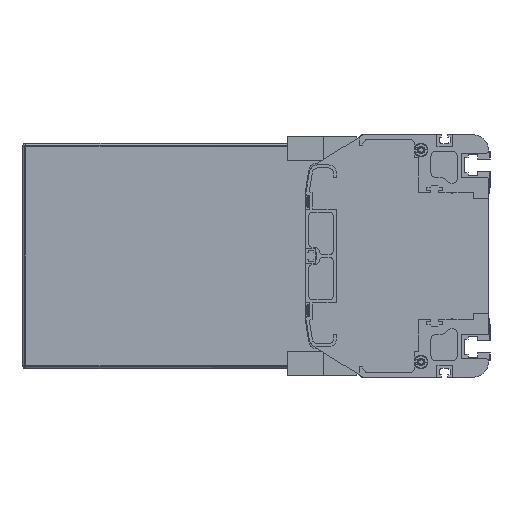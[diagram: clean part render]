
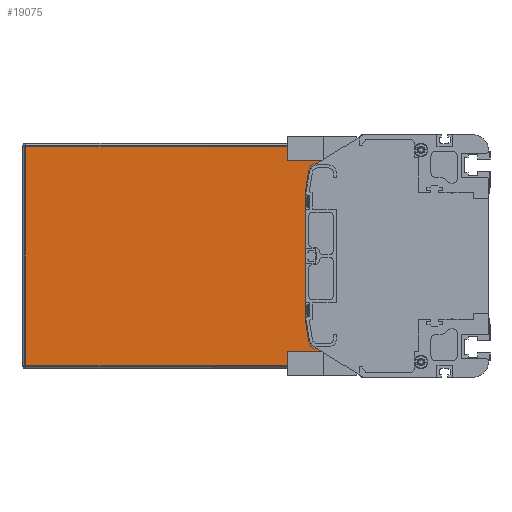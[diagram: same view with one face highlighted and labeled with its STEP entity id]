
A CAD part, left-side view. The second image highlights one B-rep face of the part: STEP entity #19075.
In plain terms, the highlighted planar face has unit normal (-1, 0, 0).
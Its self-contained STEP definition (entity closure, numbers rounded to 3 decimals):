
#1151=DIRECTION('',(0.,1.,0.));
#1152=VECTOR('',#1151,220.5);
#1153=CARTESIAN_POINT('',(1786.5,86.,72.));
#1154=LINE('',#1153,#1152);
#1202=DIRECTION('',(0.,-1.,0.));
#1203=VECTOR('',#1202,220.5);
#1204=CARTESIAN_POINT('',(1786.5,306.5,-72.));
#1205=LINE('',#1204,#1203);
#1261=DIRECTION('',(0.,0.,-1.));
#1262=VECTOR('',#1261,144.);
#1263=CARTESIAN_POINT('',(1786.5,306.5,72.));
#1264=LINE('',#1263,#1262);
#1296=CARTESIAN_POINT('',(1786.5,114.728,56.));
#1297=DIRECTION('',(-1.,0.,0.));
#1298=DIRECTION('',(0.,0.,1.));
#1299=AXIS2_PLACEMENT_3D('',#1296,#1297,#1298);
#1301=DIRECTION('',(0.,0.156,-0.988));
#1302=VECTOR('',#1301,14.963);
#1303=CARTESIAN_POINT('',(1786.5,119.666,56.78));
#1304=LINE('',#1303,#1302);
#1305=DIRECTION('',(0.,-0.156,-0.988));
#1306=VECTOR('',#1305,14.963);
#1307=CARTESIAN_POINT('',(1786.5,122.,-42.));
#1308=LINE('',#1307,#1306);
#1309=CARTESIAN_POINT('',(1786.5,114.728,-56.));
#1310=DIRECTION('',(-1.,0.,0.));
#1311=DIRECTION('',(0.,0.988,-0.156));
#1312=AXIS2_PLACEMENT_3D('',#1309,#1310,#1311);
#1319=DIRECTION('',(0.,0.,-1.));
#1320=VECTOR('',#1319,11.);
#1321=CARTESIAN_POINT('',(1786.5,86.,-61.));
#1322=LINE('',#1321,#1320);
#1328=DIRECTION('',(0.,0.,-1.));
#1329=VECTOR('',#1328,11.);
#1330=CARTESIAN_POINT('',(1786.5,86.,72.));
#1331=LINE('',#1330,#1329);
#11306=DIRECTION('',(0.,1.,0.));
#11307=VECTOR('',#11306,28.728);
#11308=CARTESIAN_POINT('',(1786.5,86.,-61.));
#11309=LINE('',#11308,#11307);
#11326=DIRECTION('',(0.,0.,1.));
#11327=VECTOR('',#11326,84.);
#11328=CARTESIAN_POINT('',(1786.5,122.,-42.));
#11329=LINE('',#11328,#11327);
#11350=DIRECTION('',(0.,-1.,0.));
#11351=VECTOR('',#11350,28.728);
#11352=CARTESIAN_POINT('',(1786.5,114.728,61.));
#11353=LINE('',#11352,#11351);
#14005=CARTESIAN_POINT('',(1786.5,306.5,-72.));
#14006=CARTESIAN_POINT('',(1786.5,86.,-72.));
#14007=VERTEX_POINT('',#14005);
#14008=VERTEX_POINT('',#14006);
#14009=CARTESIAN_POINT('',(1786.5,86.,-61.));
#14010=VERTEX_POINT('',#14009);
#14011=CARTESIAN_POINT('',(1786.5,114.728,-61.));
#14012=VERTEX_POINT('',#14011);
#14013=CARTESIAN_POINT('',(1786.5,119.666,-56.78));
#14014=VERTEX_POINT('',#14013);
#14015=CARTESIAN_POINT('',(1786.5,122.,-42.));
#14016=VERTEX_POINT('',#14015);
#14017=CARTESIAN_POINT('',(1786.5,122.,42.));
#14018=VERTEX_POINT('',#14017);
#14019=CARTESIAN_POINT('',(1786.5,119.666,56.78));
#14020=VERTEX_POINT('',#14019);
#14021=CARTESIAN_POINT('',(1786.5,114.728,61.));
#14022=VERTEX_POINT('',#14021);
#14023=CARTESIAN_POINT('',(1786.5,86.,61.));
#14024=VERTEX_POINT('',#14023);
#14025=CARTESIAN_POINT('',(1786.5,86.,72.));
#14026=VERTEX_POINT('',#14025);
#14027=CARTESIAN_POINT('',(1786.5,306.5,72.));
#14028=VERTEX_POINT('',#14027);
#19047=CARTESIAN_POINT('',(1786.5,196.25,0.));
#19048=DIRECTION('',(1.,0.,0.));
#19049=DIRECTION('',(0.,0.,-1.));
#19050=AXIS2_PLACEMENT_3D('',#19047,#19048,#19049);
#19051=PLANE('',#19050);
#19052=ORIENTED_EDGE('',*,*,#18920,.F.);
#19053=ORIENTED_EDGE('',*,*,#19016,.F.);
#19054=ORIENTED_EDGE('',*,*,#18873,.F.);
#19056=ORIENTED_EDGE('',*,*,#19055,.T.);
#19058=ORIENTED_EDGE('',*,*,#19057,.F.);
#19060=ORIENTED_EDGE('',*,*,#19059,.T.);
#19062=ORIENTED_EDGE('',*,*,#19061,.T.);
#19064=ORIENTED_EDGE('',*,*,#19063,.F.);
#19066=ORIENTED_EDGE('',*,*,#19065,.T.);
#19068=ORIENTED_EDGE('',*,*,#19067,.T.);
#19070=ORIENTED_EDGE('',*,*,#19069,.F.);
#19072=ORIENTED_EDGE('',*,*,#19071,.T.);
#19073=EDGE_LOOP('',(#19052,#19053,#19054,#19056,#19058,#19060,#19062,#19064,
#19066,#19068,#19070,#19072));
#19074=FACE_OUTER_BOUND('',#19073,.F.);
#19075=ADVANCED_FACE('',(#19074),#19051,.F.);
#1300=CIRCLE('',#1299,5.);
#1313=CIRCLE('',#1312,5.);
#18873=EDGE_CURVE('',#14026,#14028,#1154,.T.);
#18920=EDGE_CURVE('',#14007,#14008,#1205,.T.);
#19016=EDGE_CURVE('',#14028,#14007,#1264,.T.);
#19055=EDGE_CURVE('',#14026,#14024,#1331,.T.);
#19057=EDGE_CURVE('',#14022,#14024,#11353,.T.);
#19059=EDGE_CURVE('',#14022,#14020,#1300,.T.);
#19061=EDGE_CURVE('',#14020,#14018,#1304,.T.);
#19063=EDGE_CURVE('',#14016,#14018,#11329,.T.);
#19065=EDGE_CURVE('',#14016,#14014,#1308,.T.);
#19067=EDGE_CURVE('',#14014,#14012,#1313,.T.);
#19069=EDGE_CURVE('',#14010,#14012,#11309,.T.);
#19071=EDGE_CURVE('',#14010,#14008,#1322,.T.);
